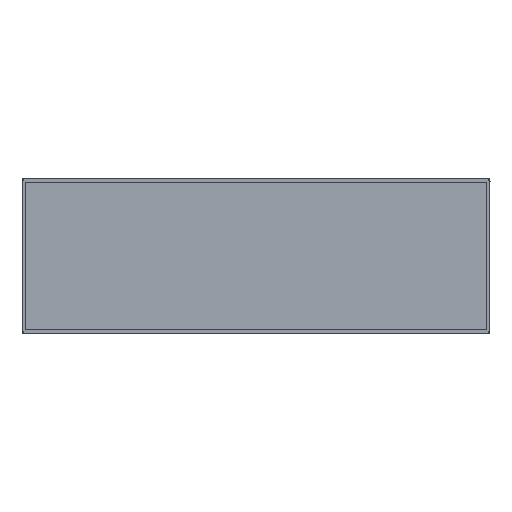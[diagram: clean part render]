
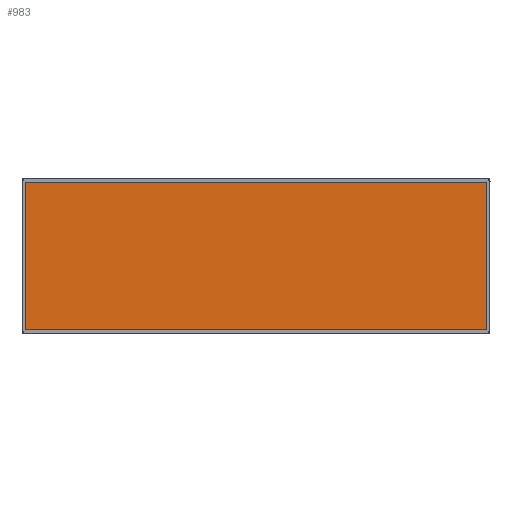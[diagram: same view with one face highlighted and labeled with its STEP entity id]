
A CAD part, front view. The second image highlights one B-rep face of the part: STEP entity #983.
In plain terms, the highlighted planar face has unit normal (0, -1, 0).
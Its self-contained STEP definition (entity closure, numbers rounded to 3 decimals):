
#125=FACE_OUTER_BOUND('',#186,.T.);
#186=EDGE_LOOP('',(#879,#880,#881,#882,#883));
#197=LINE('',#1341,#301);
#200=LINE('',#1413,#304);
#201=LINE('',#1416,#305);
#262=LINE('',#1893,#366);
#283=LINE('',#2208,#387);
#301=VECTOR('',#1086,283.);
#304=VECTOR('',#1091,10.);
#305=VECTOR('',#1094,283.);
#366=VECTOR('',#1233,10.);
#387=VECTOR('',#1298,10.);
#401=VERTEX_POINT('',#1332);
#405=VERTEX_POINT('',#1339);
#409=VERTEX_POINT('',#1410);
#410=VERTEX_POINT('',#1415);
#470=VERTEX_POINT('',#1890);
#498=EDGE_CURVE('',#405,#401,#197,.T.);
#503=EDGE_CURVE('',#401,#409,#200,.T.);
#504=EDGE_CURVE('',#409,#410,#201,.T.);
#586=EDGE_CURVE('',#470,#405,#262,.T.);
#618=EDGE_CURVE('',#470,#410,#283,.T.);
#879=ORIENTED_EDGE('',*,*,#586,.F.);
#880=ORIENTED_EDGE('',*,*,#618,.T.);
#881=ORIENTED_EDGE('',*,*,#504,.F.);
#882=ORIENTED_EDGE('',*,*,#503,.F.);
#883=ORIENTED_EDGE('',*,*,#498,.F.);
#932=PLANE('',#1071);
#983=ADVANCED_FACE('',(#125),#932,.F.);
#1071=AXIS2_PLACEMENT_3D('',#2212,#1304,#1305);
#1086=DIRECTION('',(0.,0.,1.));
#1091=DIRECTION('',(1.,0.,0.));
#1094=DIRECTION('',(0.,0.,-1.));
#1233=DIRECTION('',(0.,0.,1.));
#1298=DIRECTION('',(1.,0.,0.));
#1304=DIRECTION('center_axis',(0.,1.,0.));
#1305=DIRECTION('ref_axis',(0.,0.,1.));
#1332=CARTESIAN_POINT('',(2669.443,-9.6,1062.487));
#1339=CARTESIAN_POINT('',(2669.443,-9.6,780.487));
#1341=CARTESIAN_POINT('',(2669.443,-9.6,779.487));
#1410=CARTESIAN_POINT('',(3552.443,-9.6,1062.487));
#1413=CARTESIAN_POINT('',(3181.193,-9.6,1062.487));
#1415=CARTESIAN_POINT('',(3552.443,-9.6,779.487));
#1416=CARTESIAN_POINT('',(3552.443,-9.6,1062.487));
#1890=CARTESIAN_POINT('',(2669.443,-9.6,779.487));
#1893=CARTESIAN_POINT('',(2669.443,-9.6,779.487));
#2208=CARTESIAN_POINT('',(3551.443,-9.6,779.487));
#2212=CARTESIAN_POINT('Origin',(2810.943,-9.6,1067.107));
